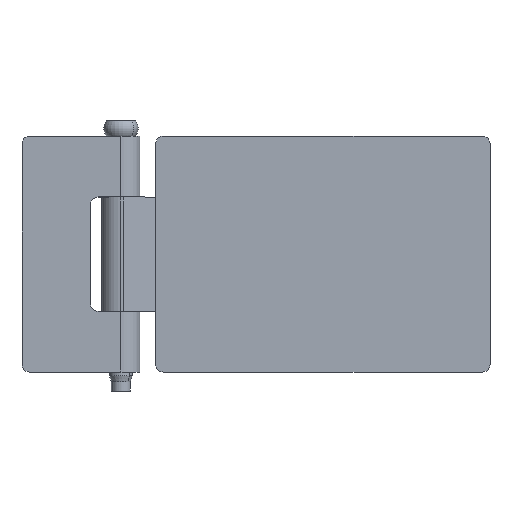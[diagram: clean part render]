
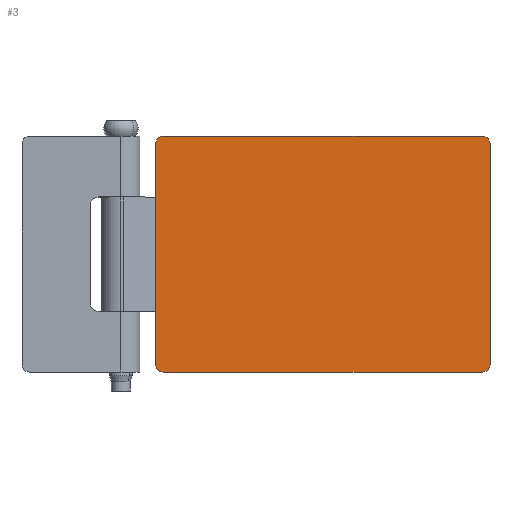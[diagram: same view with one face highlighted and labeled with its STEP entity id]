
A CAD part, top view. The second image highlights one B-rep face of the part: STEP entity #3.
In plain terms, the highlighted planar face has unit normal (0, 0, 1).
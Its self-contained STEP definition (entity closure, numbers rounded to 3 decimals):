
#3 = ADVANCED_FACE ( 'NONE', ( #154 ), #836, .F. ) ;
#56 = LINE ( 'NONE', #962, #910 ) ;
#74 = VECTOR ( 'NONE', #270, 1000. ) ;
#85 = AXIS2_PLACEMENT_3D ( 'NONE', #1191, #1174, #1756 ) ;
#106 = ORIENTED_EDGE ( 'NONE', *, *, #1436, .T. ) ;
#154 = FACE_OUTER_BOUND ( 'NONE', #1408, .T. ) ;
#160 = CARTESIAN_POINT ( 'NONE',  ( 95., -29., 4. ) ) ;
#169 = DIRECTION ( 'NONE',  ( 0., 0., 1. ) ) ;
#252 = VERTEX_POINT ( 'NONE', #1265 ) ;
#270 = DIRECTION ( 'NONE',  ( 0., -1., 0. ) ) ;
#276 = CARTESIAN_POINT ( 'NONE',  ( 9.169, 31., 4. ) ) ;
#299 = DIRECTION ( 'NONE',  ( -1., 0., 0. ) ) ;
#303 = DIRECTION ( 'NONE',  ( -1., 0., 0. ) ) ;
#312 = VECTOR ( 'NONE', #738, 1000. ) ;
#349 = EDGE_CURVE ( 'NONE', #1897, #1710, #809, .T. ) ;
#364 = CARTESIAN_POINT ( 'NONE',  ( 9., 31., 4. ) ) ;
#374 = LINE ( 'NONE', #364, #312 ) ;
#381 = CARTESIAN_POINT ( 'NONE',  ( 11.169, -31., 4. ) ) ;
#390 = CARTESIAN_POINT ( 'NONE',  ( 9.169, -29., 4. ) ) ;
#499 = CARTESIAN_POINT ( 'NONE',  ( 95., -31., 4. ) ) ;
#619 = DIRECTION ( 'NONE',  ( 0., 1., 0. ) ) ;
#626 = DIRECTION ( 'NONE',  ( 1., 0., 0. ) ) ;
#640 = ORIENTED_EDGE ( 'NONE', *, *, #971, .T. ) ;
#645 = AXIS2_PLACEMENT_3D ( 'NONE', #843, #2092, #303 ) ;
#650 = EDGE_CURVE ( 'NONE', #1315, #252, #1699, .T. ) ;
#653 = EDGE_CURVE ( 'NONE', #1131, #1710, #374, .T. ) ;
#658 = VERTEX_POINT ( 'NONE', #381 ) ;
#693 = EDGE_CURVE ( 'NONE', #1723, #252, #1959, .T. ) ;
#738 = DIRECTION ( 'NONE',  ( 1., 0., 0. ) ) ;
#755 = ORIENTED_EDGE ( 'NONE', *, *, #2095, .T. ) ;
#789 = CARTESIAN_POINT ( 'NONE',  ( 9.169, 31., 4. ) ) ;
#809 = CIRCLE ( 'NONE', #1486, 2. ) ;
#810 = EDGE_CURVE ( 'NONE', #658, #2035, #56, .T. ) ;
#817 = LINE ( 'NONE', #1968, #1629 ) ;
#836 = PLANE ( 'NONE',  #645 ) ;
#843 = CARTESIAN_POINT ( 'NONE',  ( 9., 31., 4. ) ) ;
#860 = CARTESIAN_POINT ( 'NONE',  ( 95., 29., 4. ) ) ;
#888 = DIRECTION ( 'NONE',  ( 0., 0., 1. ) ) ;
#892 = DIRECTION ( 'NONE',  ( -1., 0., 0. ) ) ;
#910 = VECTOR ( 'NONE', #626, 1000. ) ;
#931 = ORIENTED_EDGE ( 'NONE', *, *, #650, .F. ) ;
#962 = CARTESIAN_POINT ( 'NONE',  ( 9., -31., 4. ) ) ;
#971 = EDGE_CURVE ( 'NONE', #1315, #658, #1362, .T. ) ;
#1039 = EDGE_CURVE ( 'NONE', #1897, #1070, #817, .T. ) ;
#1070 = VERTEX_POINT ( 'NONE', #1195 ) ;
#1072 = DIRECTION ( 'NONE',  ( 0., -1., 0. ) ) ;
#1074 = ORIENTED_EDGE ( 'NONE', *, *, #2030, .T. ) ;
#1120 = CARTESIAN_POINT ( 'NONE',  ( 9.169, 15., 4. ) ) ;
#1131 = VERTEX_POINT ( 'NONE', #1331 ) ;
#1174 = DIRECTION ( 'NONE',  ( 0., 0., 1. ) ) ;
#1191 = CARTESIAN_POINT ( 'NONE',  ( 11.169, -29., 4. ) ) ;
#1195 = CARTESIAN_POINT ( 'NONE',  ( 97., -29., 4. ) ) ;
#1197 = CARTESIAN_POINT ( 'NONE',  ( 97., 29., 4. ) ) ;
#1205 = VECTOR ( 'NONE', #619, 1000. ) ;
#1235 = AXIS2_PLACEMENT_3D ( 'NONE', #160, #169, #299 ) ;
#1265 = CARTESIAN_POINT ( 'NONE',  ( 9.169, -15., 4. ) ) ;
#1272 = CIRCLE ( 'NONE', #1666, 2. ) ;
#1315 = VERTEX_POINT ( 'NONE', #390 ) ;
#1326 = VECTOR ( 'NONE', #1072, 1000. ) ;
#1331 = CARTESIAN_POINT ( 'NONE',  ( 11.169, 31., 4. ) ) ;
#1346 = ORIENTED_EDGE ( 'NONE', *, *, #1039, .F. ) ;
#1362 = CIRCLE ( 'NONE', #85, 2. ) ;
#1408 = EDGE_LOOP ( 'NONE', ( #2131, #755, #106, #1946, #931, #640, #2093, #1074, #1346, #2052 ) ) ;
#1436 = EDGE_CURVE ( 'NONE', #1579, #1723, #2065, .T. ) ;
#1437 = CARTESIAN_POINT ( 'NONE',  ( 95., 31., 4. ) ) ;
#1475 = CARTESIAN_POINT ( 'NONE',  ( 11.169, 29., 4. ) ) ;
#1480 = DIRECTION ( 'NONE',  ( 0., 0., 1. ) ) ;
#1486 = AXIS2_PLACEMENT_3D ( 'NONE', #860, #888, #892 ) ;
#1493 = DIRECTION ( 'NONE',  ( -1., 0., 0. ) ) ;
#1579 = VERTEX_POINT ( 'NONE', #1657 ) ;
#1629 = VECTOR ( 'NONE', #1654, 1000. ) ;
#1654 = DIRECTION ( 'NONE',  ( 0., -1., 0. ) ) ;
#1657 = CARTESIAN_POINT ( 'NONE',  ( 9.169, 29., 4. ) ) ;
#1666 = AXIS2_PLACEMENT_3D ( 'NONE', #1475, #1480, #1493 ) ;
#1699 = LINE ( 'NONE', #789, #1205 ) ;
#1710 = VERTEX_POINT ( 'NONE', #1437 ) ;
#1723 = VERTEX_POINT ( 'NONE', #1120 ) ;
#1756 = DIRECTION ( 'NONE',  ( -1., 0., 0. ) ) ;
#1817 = CIRCLE ( 'NONE', #1235, 2. ) ;
#1897 = VERTEX_POINT ( 'NONE', #1197 ) ;
#1946 = ORIENTED_EDGE ( 'NONE', *, *, #693, .T. ) ;
#1959 = LINE ( 'NONE', #276, #74 ) ;
#1968 = CARTESIAN_POINT ( 'NONE',  ( 97., 31., 4. ) ) ;
#1996 = CARTESIAN_POINT ( 'NONE',  ( 9.169, 31., 4. ) ) ;
#2030 = EDGE_CURVE ( 'NONE', #2035, #1070, #1817, .T. ) ;
#2035 = VERTEX_POINT ( 'NONE', #499 ) ;
#2052 = ORIENTED_EDGE ( 'NONE', *, *, #349, .T. ) ;
#2065 = LINE ( 'NONE', #1996, #1326 ) ;
#2092 = DIRECTION ( 'NONE',  ( 0., 0., -1. ) ) ;
#2093 = ORIENTED_EDGE ( 'NONE', *, *, #810, .T. ) ;
#2095 = EDGE_CURVE ( 'NONE', #1131, #1579, #1272, .T. ) ;
#2131 = ORIENTED_EDGE ( 'NONE', *, *, #653, .F. ) ;
